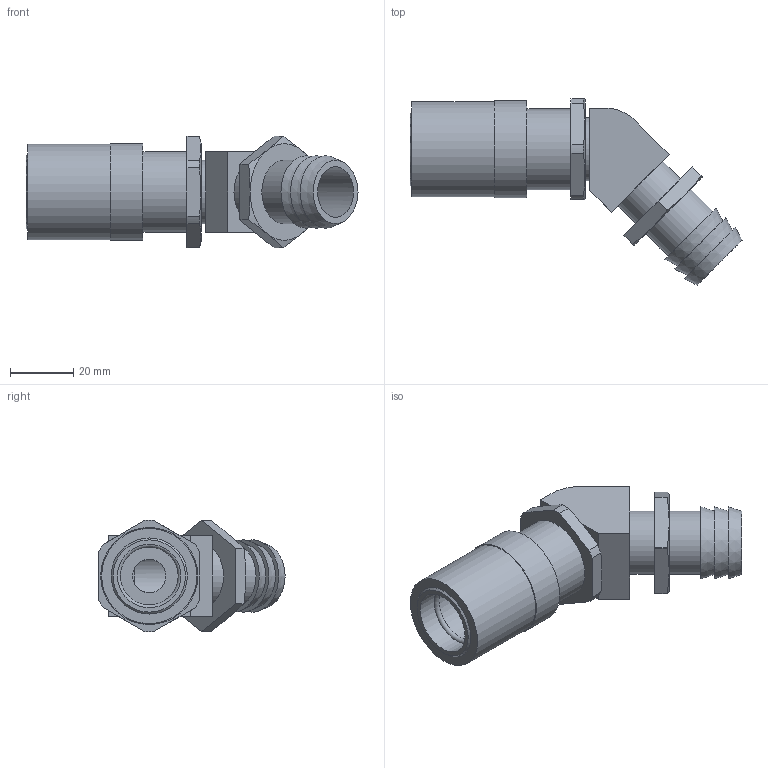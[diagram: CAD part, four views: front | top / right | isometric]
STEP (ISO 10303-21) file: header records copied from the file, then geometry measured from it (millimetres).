
FILE_DESCRIPTION(/* description */ ('STEP AP214'),/* implementation_level */ '2;1');
FILE_NAME(/* name */ 'SK319',/* time_stamp */ '2024-12-19T09:33:29+01:00',/* author */ ('License CC BY-ND 4.0'),/* organization */ ('CADENAS'),/* preprocessor_version */ 'ST-DEVELOPER v19.3',/* originating_system */ 'PARTsolutions',/* authorisation */ ' ');
FILE_SCHEMA (('AUTOMOTIVE_DESIGN {1 0 10303 214 3 1 1}'));
Length unit declared in the file: millimetre
Products named in the file (1): SK319
Bounding box: 104.66 x 58.71 x 35.19 mm (x, y, z)
Volume: 44453 mm3; surface area: 18866.6 mm2
Topology: 1 solids, 1 shells, 69 faces, 155 edges, 101 vertices
Faces by surface type: plane 34, cylinder 23, cone 11, torus 1
Full cylindrical faces by diameter (mm): 10.566 x1, 16 x1, 20 x5, 25.4 x1, 30 x1, 30.6 x1
Entity records: 1880 total; most frequent: CARTESIAN_POINT 366, DIRECTION 319, ORIENTED_EDGE 270, EDGE_CURVE 135, AXIS2_PLACEMENT_3D 133, EDGE_LOOP 100, FACE_BOUND 100, VERTEX_POINT 97
